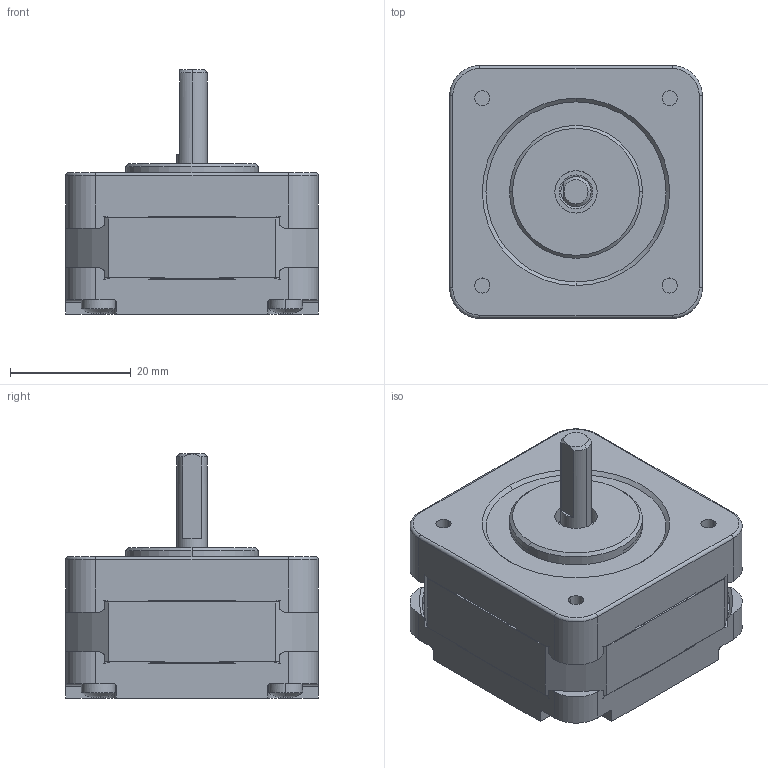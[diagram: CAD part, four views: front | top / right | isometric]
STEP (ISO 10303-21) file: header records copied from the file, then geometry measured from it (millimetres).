
FILE_DESCRIPTION((''),'2;1');
FILE_NAME('3_1_01_042_1063_SW0001','2020-10-14T',('xujiajun'),(''),'CREO PARAMETRIC BY PTC INC, 2015200','CREO PARAMETRIC BY PTC INC, 2015200','');
FILE_SCHEMA(('CONFIG_CONTROL_DESIGN'));
Products named in the file (1): 3_1_01_042_1063_SW0001
Bounding box: 42 x 42 x 40.4 mm (x, y, z)
Volume: 28054 mm3; surface area: 29675.4 mm2
Topology: 2 solids, 4 shells, 4040 faces, 11723 edges, 7478 vertices
Faces by surface type: plane 2200, cylinder 1558, torus 234, cone 36, sphere 8, bspline 4
Entity records: 138722 total; most frequent: CARTESIAN_POINT 29979, ORIENTED_EDGE 23446, DIRECTION 22884, EDGE_CURVE 11723, AXIS2_PLACEMENT_3D 7817, VERTEX_POINT 7478, VECTOR 7250, LINE 7250
